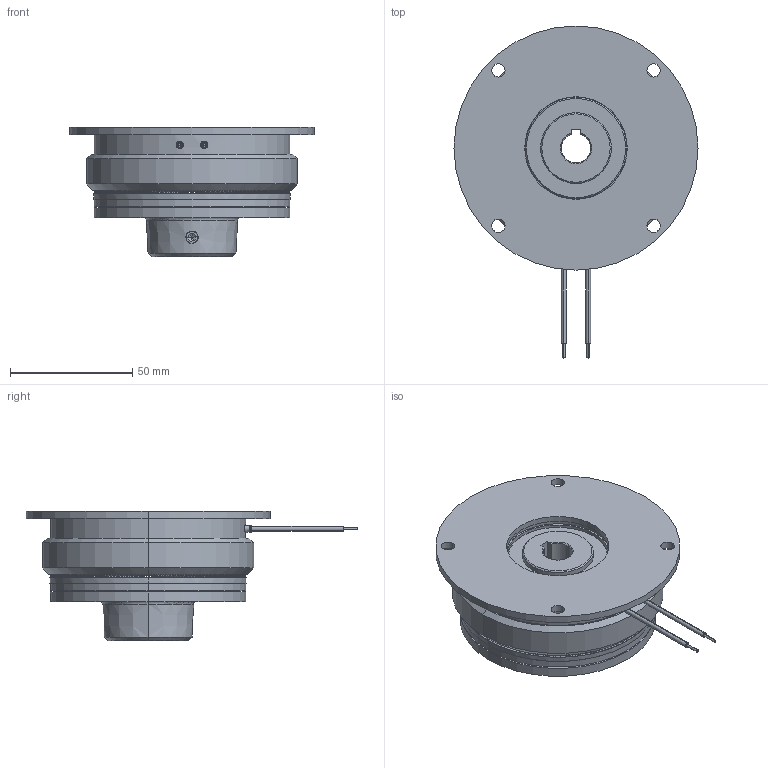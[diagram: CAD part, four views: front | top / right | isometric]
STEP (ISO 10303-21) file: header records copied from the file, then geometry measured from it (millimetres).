
FILE_DESCRIPTION (( 'STEP AP214' ), '1' );
FILE_NAME ('dr_bk_0707-130_mu.STEP', '2021-11-19T07:31:55', ( '' ), ( '' ), 'SwSTEP 2.0', 'SolidWorks 2019', '' );
FILE_SCHEMA (( 'AUTOMOTIVE_DESIGN' ));
Length unit declared in the file: millimetre
Products named in the file (11): 10069174_000; 10068812_000; 10069207_000_Kundenmodell; dr_bk_0707-130_mu; 10068807_000; 10069209_000_gedreht nach Arbeitsanweisung 07.001-4-0327; 10068806_000_Einbaul„nge 3,1mm; 10068806_000_Einbaul„nge 3,05mm; 10068811_000_M 6 x 10; 10069210_000_Kundenmodell; 10068805_000
Assembly tree (19 placements, depth 3):
  dr_bk_0707-130_mu
    10069174_000
    10069210_000_Kundenmodell
    10069207_000_Kundenmodell
      10068812_000
      10069209_000_gedreht nach Arbeitsanweisung 07.001-4-0327
      10068807_000
      10068806_000_Einbaul„nge 3,1mm  x3
      10068805_000  x6
      10068806_000_Einbaul„nge 3,05mm  x3
      10068811_000_M 6 x 10
Bounding box: 100 x 136 x 53.1 mm (x, y, z)
Volume: 192750.3 mm3; surface area: 74122.6 mm2
Topology: 20 solids, 20 shells, 3487 faces, 8695 edges, 5262 vertices
Faces by surface type: plane 2332, cone 829, cylinder 172, bspline 111, torus 31, sphere 12
Entity records: 110055 total; most frequent: CARTESIAN_POINT 33823, ORIENTED_EDGE 16930, DIRECTION 13660, EDGE_CURVE 8465, VERTEX_POINT 5134, AXIS2_PLACEMENT_3D 5123, EDGE_LOOP 3471, VECTOR 3414
